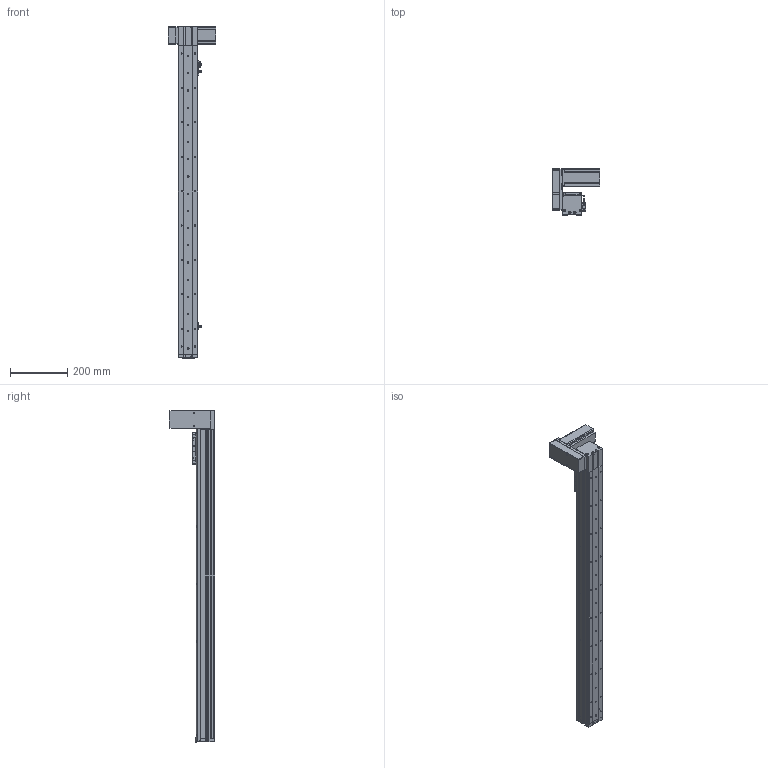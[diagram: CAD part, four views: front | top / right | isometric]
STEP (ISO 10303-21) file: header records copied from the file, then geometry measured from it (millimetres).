
FILE_DESCRIPTION (( 'STEP AP214' ), '1' );
FILE_NAME ('KSD68BS-S900-MRU-CR.STEP', '2019-08-28T06:26:29', ( '微软用户' ), ( '微软中国' ), 'SwSTEP 2.0', 'SolidWorks 2014', '' );
FILE_SCHEMA (( 'AUTOMOTIVE_DESIGN' ));
Length unit declared in the file: millimetre
Products named in the file (14): 悵誘欶奻狟殏; 68宽马达安装板连板上折同步带; 感应片68宽全封闭; U倰嫖萇EEㄜSX672; 台达ECMA－C20604AS伺服电机（400W); KSD68BS 900行程底板全封闭; KSD68BS-S900-MRU-CR; KSD68BS 900行程盖板全封闭; 68遵裔啣揤啣1; 68宽单导轨全封闭丝杆传动安装板1防护罩; KSD68BS 900行程侧板全封闭; 68宽单导轨全封闭同步带端板; 68单导轨全封闭同步带电机座右; 68单导轨全封闭同步带安装板
Assembly tree (16 placements, depth 2):
  KSD68BS-S900-MRU-CR
    KSD68BS 900行程底板全封闭
    台达ECMA－C20604AS伺服电机（400W)
    U倰嫖萇EEㄜSX672  x3
    感应片68宽全封闭
    68宽马达安装板连板上折同步带
    悵誘欶奻狟殏
    68单导轨全封闭同步带安装板
    68单导轨全封闭同步带电机座右
    68宽单导轨全封闭同步带端板
    KSD68BS 900行程侧板全封闭  x2
    68宽单导轨全封闭丝杆传动安装板1防护罩
    KSD68BS 900行程盖板全封闭
    68遵裔啣揤啣1
Bounding box: 167.2 x 159.5 x 1158.1 mm (x, y, z)
Volume: 2400804.1 mm3; surface area: 906578.6 mm2
Topology: 17 solids, 17 shells, 1469 faces, 4192 edges, 2683 vertices
Faces by surface type: cylinder 693, plane 620, cone 156
Entity records: 47158 total; most frequent: CARTESIAN_POINT 8042, DIRECTION 7083, ORIENTED_EDGE 6782, EDGE_CURVE 3391, AXIS2_PLACEMENT_3D 2550, VERTEX_POINT 2225, VECTOR 1983, LINE 1983
